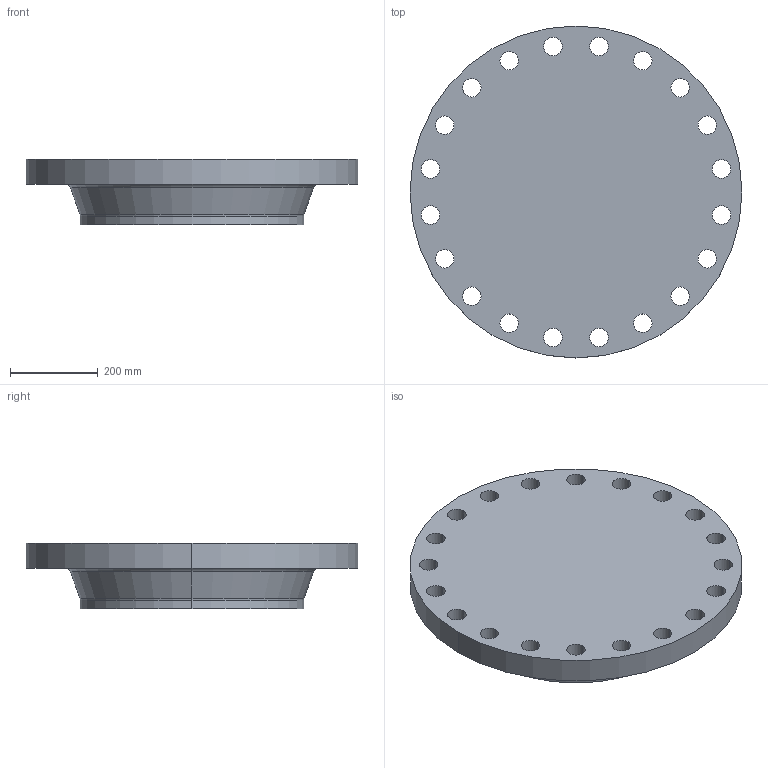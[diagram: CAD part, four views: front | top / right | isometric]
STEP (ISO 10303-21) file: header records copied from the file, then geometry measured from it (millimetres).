
FILE_DESCRIPTION (( 'STEP AP214' ), '1' );
FILE_NAME ('PN40 DN500 Type 21(ii) - Type A Face.STEP', '2018-12-29T04:24:04', ( '' ), ( '' ), 'SwSTEP 2.0', 'SolidWorks 2019', '' );
FILE_SCHEMA (( 'AUTOMOTIVE_DESIGN' ));
Length unit declared in the file: millimetre
Products named in the file (1): PN40 DN500 Type 21(ii) - Type A Face
Bounding box: 755 x 755 x 150 mm (x, y, z)
Volume: 44307408.2 mm3; surface area: 1240510.5 mm2
Topology: 1 solids, 1 shells, 53 faces, 144 edges, 94 vertices
Faces by surface type: cylinder 44, torus 4, plane 3, cone 2
Entity records: 1842 total; most frequent: DIRECTION 350, CARTESIAN_POINT 292, ORIENTED_EDGE 288, AXIS2_PLACEMENT_3D 152, EDGE_CURVE 144, CIRCLE 98, VERTEX_POINT 94, EDGE_LOOP 94
